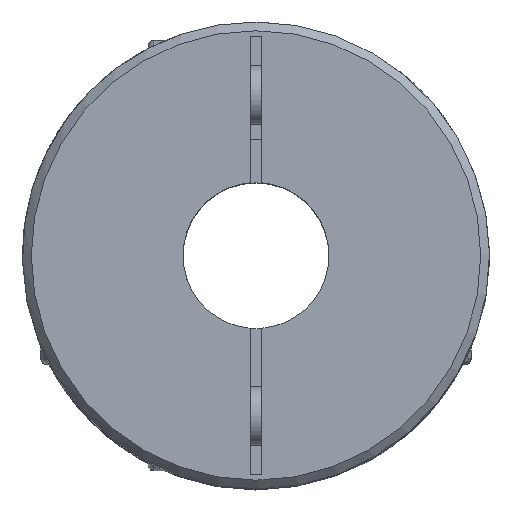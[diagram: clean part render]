
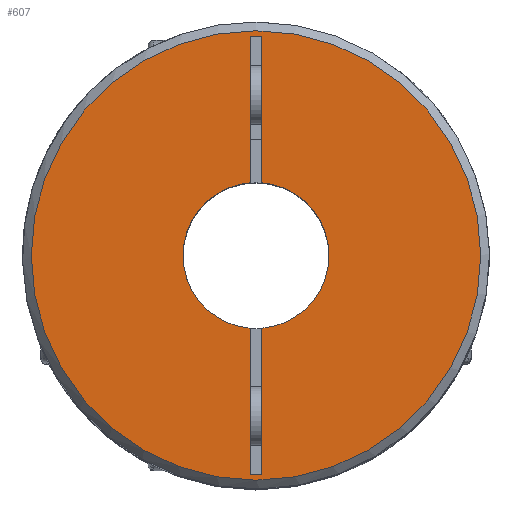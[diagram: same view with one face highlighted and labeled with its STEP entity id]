
A CAD part, top view. The second image highlights one B-rep face of the part: STEP entity #607.
In plain terms, the highlighted planar face has unit normal (0, 0, 1).
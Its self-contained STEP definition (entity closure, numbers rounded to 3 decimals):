
#39 = EDGE_CURVE ( 'NONE', #189, #2796, #2034, .T. ) ;
#106 = LINE ( 'NONE', #2814, #3955 ) ;
#126 = DIRECTION ( 'NONE',  ( 0., -1., 0. ) ) ;
#143 = DIRECTION ( 'NONE',  ( 0., 0., 1. ) ) ;
#189 = VERTEX_POINT ( 'NONE', #484 ) ;
#362 = DIRECTION ( 'NONE',  ( 0., -1., 0. ) ) ;
#445 = VERTEX_POINT ( 'NONE', #4129 ) ;
#474 = AXIS2_PLACEMENT_3D ( 'NONE', #499, #143, #2154 ) ;
#484 = CARTESIAN_POINT ( 'NONE',  ( -0.4, -15., 20.5 ) ) ;
#499 = CARTESIAN_POINT ( 'NONE',  ( 0., 0., 20.5 ) ) ;
#515 = VERTEX_POINT ( 'NONE', #2562 ) ;
#607 = ADVANCED_FACE ( 'NONE', ( #2971, #2885 ), #4240, .F. ) ;
#708 = CARTESIAN_POINT ( 'NONE',  ( -0.4, 5., 20.5 ) ) ;
#767 = ORIENTED_EDGE ( 'NONE', *, *, #4036, .F. ) ;
#769 = CARTESIAN_POINT ( 'NONE',  ( 0.4, 15., 20.5 ) ) ;
#807 = DIRECTION ( 'NONE',  ( 0., 1., 0. ) ) ;
#887 = CARTESIAN_POINT ( 'NONE',  ( 0.4, -4.984, 20.5 ) ) ;
#895 = LINE ( 'NONE', #4323, #1192 ) ;
#947 = CARTESIAN_POINT ( 'NONE',  ( -0.4, -15., 20.5 ) ) ;
#982 = DIRECTION ( 'NONE',  ( 0., 1., 0. ) ) ;
#1178 = ORIENTED_EDGE ( 'NONE', *, *, #39, .T. ) ;
#1192 = VECTOR ( 'NONE', #2306, 1000. ) ;
#1631 = CARTESIAN_POINT ( 'NONE',  ( 0., 5., 20.5 ) ) ;
#1688 = EDGE_CURVE ( 'NONE', #515, #445, #895, .T. ) ;
#1777 = CIRCLE ( 'NONE', #4286, 5. ) ;
#1828 = CARTESIAN_POINT ( 'NONE',  ( -0.4, -4.984, 20.5 ) ) ;
#1962 = AXIS2_PLACEMENT_3D ( 'NONE', #2597, #2617, #3957 ) ;
#1969 = VECTOR ( 'NONE', #362, 1000. ) ;
#1986 = VERTEX_POINT ( 'NONE', #887 ) ;
#2000 = LINE ( 'NONE', #3423, #3487 ) ;
#2033 = CIRCLE ( 'NONE', #1962, 15.4 ) ;
#2034 = LINE ( 'NONE', #708, #3962 ) ;
#2154 = DIRECTION ( 'NONE',  ( 0., -1., 0. ) ) ;
#2155 = CARTESIAN_POINT ( 'NONE',  ( 0., 0., 20.5 ) ) ;
#2269 = AXIS2_PLACEMENT_3D ( 'NONE', #1631, #3713, #982 ) ;
#2277 = EDGE_CURVE ( 'NONE', #1986, #4062, #1777, .T. ) ;
#2306 = DIRECTION ( 'NONE',  ( 0., -1., 0. ) ) ;
#2359 = DIRECTION ( 'NONE',  ( 1., 0., 0. ) ) ;
#2379 = ORIENTED_EDGE ( 'NONE', *, *, #3218, .F. ) ;
#2397 = DIRECTION ( 'NONE',  ( 0., 1., 0. ) ) ;
#2562 = CARTESIAN_POINT ( 'NONE',  ( -0.4, 15., 20.5 ) ) ;
#2597 = CARTESIAN_POINT ( 'NONE',  ( 0., 0., 20.5 ) ) ;
#2617 = DIRECTION ( 'NONE',  ( 0., 0., 1. ) ) ;
#2632 = CARTESIAN_POINT ( 'NONE',  ( 0.4, 4.984, 20.5 ) ) ;
#2757 = EDGE_LOOP ( 'NONE', ( #3436 ) ) ;
#2796 = VERTEX_POINT ( 'NONE', #1828 ) ;
#2813 = EDGE_LOOP ( 'NONE', ( #2379, #767, #1178, #3354, #4354, #4233, #3363, #3484 ) ) ;
#2814 = CARTESIAN_POINT ( 'NONE',  ( 0.4, 5., 20.5 ) ) ;
#2885 = FACE_BOUND ( 'NONE', #2813, .T. ) ;
#2971 = FACE_OUTER_BOUND ( 'NONE', #2757, .T. ) ;
#3019 = LINE ( 'NONE', #947, #3968 ) ;
#3081 = VERTEX_POINT ( 'NONE', #3791 ) ;
#3214 = DIRECTION ( 'NONE',  ( 0., 0., 1. ) ) ;
#3218 = EDGE_CURVE ( 'NONE', #3448, #1986, #106, .T. ) ;
#3298 = EDGE_CURVE ( 'NONE', #3081, #3081, #2033, .T. ) ;
#3354 = ORIENTED_EDGE ( 'NONE', *, *, #4310, .F. ) ;
#3363 = ORIENTED_EDGE ( 'NONE', *, *, #3760, .T. ) ;
#3423 = CARTESIAN_POINT ( 'NONE',  ( -0.4, 15., 20.5 ) ) ;
#3436 = ORIENTED_EDGE ( 'NONE', *, *, #3298, .T. ) ;
#3448 = VERTEX_POINT ( 'NONE', #4314 ) ;
#3458 = CARTESIAN_POINT ( 'NONE',  ( 0.4, 15., 20.5 ) ) ;
#3484 = ORIENTED_EDGE ( 'NONE', *, *, #2277, .F. ) ;
#3487 = VECTOR ( 'NONE', #2359, 1000. ) ;
#3536 = LINE ( 'NONE', #769, #1969 ) ;
#3690 = DIRECTION ( 'NONE',  ( 1., 0., 0. ) ) ;
#3713 = DIRECTION ( 'NONE',  ( 0., 0., -1. ) ) ;
#3760 = EDGE_CURVE ( 'NONE', #4194, #4062, #3536, .T. ) ;
#3791 = CARTESIAN_POINT ( 'NONE',  ( 0., 15.4, 20.5 ) ) ;
#3905 = EDGE_CURVE ( 'NONE', #515, #4194, #2000, .T. ) ;
#3955 = VECTOR ( 'NONE', #807, 1000. ) ;
#3957 = DIRECTION ( 'NONE',  ( 0., 1., 0. ) ) ;
#3962 = VECTOR ( 'NONE', #2397, 1000. ) ;
#3968 = VECTOR ( 'NONE', #3690, 1000. ) ;
#4036 = EDGE_CURVE ( 'NONE', #189, #3448, #3019, .T. ) ;
#4044 = CIRCLE ( 'NONE', #474, 5. ) ;
#4062 = VERTEX_POINT ( 'NONE', #2632 ) ;
#4129 = CARTESIAN_POINT ( 'NONE',  ( -0.4, 4.984, 20.5 ) ) ;
#4194 = VERTEX_POINT ( 'NONE', #3458 ) ;
#4233 = ORIENTED_EDGE ( 'NONE', *, *, #3905, .T. ) ;
#4240 = PLANE ( 'NONE',  #2269 ) ;
#4286 = AXIS2_PLACEMENT_3D ( 'NONE', #2155, #3214, #126 ) ;
#4310 = EDGE_CURVE ( 'NONE', #445, #2796, #4044, .T. ) ;
#4314 = CARTESIAN_POINT ( 'NONE',  ( 0.4, -15., 20.5 ) ) ;
#4323 = CARTESIAN_POINT ( 'NONE',  ( -0.4, 15., 20.5 ) ) ;
#4354 = ORIENTED_EDGE ( 'NONE', *, *, #1688, .F. ) ;
